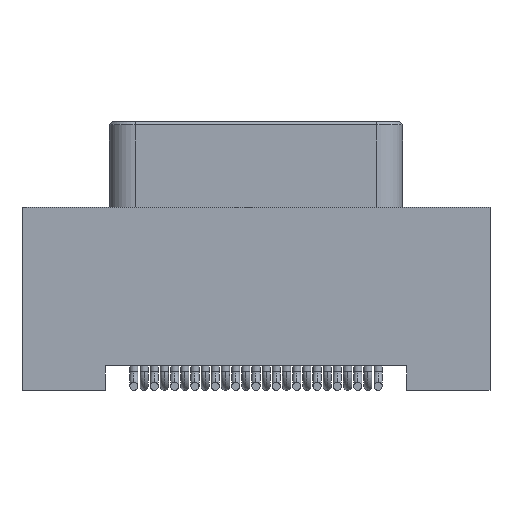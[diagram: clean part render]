
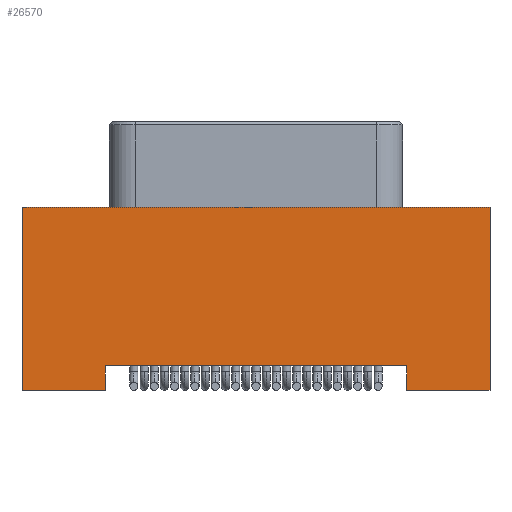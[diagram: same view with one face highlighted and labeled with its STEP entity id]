
A CAD part, front view. The second image highlights one B-rep face of the part: STEP entity #26570.
In plain terms, the highlighted planar face has unit normal (0, -1, 0).
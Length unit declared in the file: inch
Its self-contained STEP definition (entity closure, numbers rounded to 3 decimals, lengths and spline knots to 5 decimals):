
#292 = EDGE_CURVE ( 'NONE', #6756, #18882, #26826, .T. ) ;
#635 = CARTESIAN_POINT ( 'NONE',  ( -0.2875, -0.0575, -0.105 ) ) ;
#706 = VECTOR ( 'NONE', #13394, 39.37008 ) ;
#858 = ORIENTED_EDGE ( 'NONE', *, *, #25225, .F. ) ;
#1547 = ORIENTED_EDGE ( 'NONE', *, *, #2465, .T. ) ;
#2465 = EDGE_CURVE ( 'NONE', #19016, #6756, #24839, .T. ) ;
#2733 = LINE ( 'NONE', #635, #6737 ) ;
#3201 = ORIENTED_EDGE ( 'NONE', *, *, #21034, .F. ) ;
#4126 = EDGE_CURVE ( 'NONE', #19050, #19016, #16766, .T. ) ;
#4665 = PLANE ( 'NONE',  #21988 ) ;
#5192 = DIRECTION ( 'NONE',  ( -1., 0., 0. ) ) ;
#5815 = CARTESIAN_POINT ( 'NONE',  ( -0.185, -0.0575, -0.3 ) ) ;
#5855 = CARTESIAN_POINT ( 'NONE',  ( -0.185, -0.0575, -0.33 ) ) ;
#6737 = VECTOR ( 'NONE', #5192, 39.37008 ) ;
#6756 = VERTEX_POINT ( 'NONE', #10964 ) ;
#6989 = VERTEX_POINT ( 'NONE', #12966 ) ;
#8155 = VERTEX_POINT ( 'NONE', #5855 ) ;
#8957 = VECTOR ( 'NONE', #27864, 39.37008 ) ;
#8963 = EDGE_CURVE ( 'NONE', #6989, #8155, #15974, .T. ) ;
#9331 = DIRECTION ( 'NONE',  ( 0., 0., -1. ) ) ;
#9729 = CARTESIAN_POINT ( 'NONE',  ( -0.2875, -0.0575, -0.33 ) ) ;
#9776 = VECTOR ( 'NONE', #14545, 39.37008 ) ;
#10398 = CARTESIAN_POINT ( 'NONE',  ( -0.2875, -0.0575, -0.105 ) ) ;
#10432 = EDGE_CURVE ( 'NONE', #18882, #17264, #2733, .T. ) ;
#10723 = CARTESIAN_POINT ( 'NONE',  ( 0.185, -0.0575, -0.3 ) ) ;
#10964 = CARTESIAN_POINT ( 'NONE',  ( 0.2875, -0.0575, -0.33 ) ) ;
#11395 = CARTESIAN_POINT ( 'NONE',  ( -0.185, -0.0575, -0.3 ) ) ;
#12080 = ORIENTED_EDGE ( 'NONE', *, *, #10432, .T. ) ;
#12966 = CARTESIAN_POINT ( 'NONE',  ( -0.2875, -0.0575, -0.33 ) ) ;
#13185 = VECTOR ( 'NONE', #27681, 39.37008 ) ;
#13394 = DIRECTION ( 'NONE',  ( -1., 0., 0. ) ) ;
#14328 = LINE ( 'NONE', #11395, #25252 ) ;
#14545 = DIRECTION ( 'NONE',  ( 1., 0., 0. ) ) ;
#14739 = ORIENTED_EDGE ( 'NONE', *, *, #292, .T. ) ;
#14983 = VERTEX_POINT ( 'NONE', #5815 ) ;
#15974 = LINE ( 'NONE', #16894, #9776 ) ;
#16766 = LINE ( 'NONE', #10723, #28415 ) ;
#16894 = CARTESIAN_POINT ( 'NONE',  ( -0.2875, -0.0575, -0.33 ) ) ;
#17032 = ORIENTED_EDGE ( 'NONE', *, *, #19012, .F. ) ;
#17264 = VERTEX_POINT ( 'NONE', #10398 ) ;
#18882 = VERTEX_POINT ( 'NONE', #27951 ) ;
#19012 = EDGE_CURVE ( 'NONE', #6989, #17264, #29665, .T. ) ;
#19016 = VERTEX_POINT ( 'NONE', #21327 ) ;
#19050 = VERTEX_POINT ( 'NONE', #19096 ) ;
#19096 = CARTESIAN_POINT ( 'NONE',  ( 0.185, -0.0575, -0.3 ) ) ;
#19957 = LINE ( 'NONE', #29664, #706 ) ;
#20000 = EDGE_LOOP ( 'NONE', ( #29096, #1547, #14739, #12080, #17032, #30018, #3201, #858 ) ) ;
#20923 = CARTESIAN_POINT ( 'NONE',  ( -0.2875, -0.0575, -0.33 ) ) ;
#20975 = FACE_OUTER_BOUND ( 'NONE', #20000, .T. ) ;
#21034 = EDGE_CURVE ( 'NONE', #14983, #8155, #14328, .T. ) ;
#21327 = CARTESIAN_POINT ( 'NONE',  ( 0.185, -0.0575, -0.33 ) ) ;
#21988 = AXIS2_PLACEMENT_3D ( 'NONE', #20923, #23274, #9331 ) ;
#23002 = CARTESIAN_POINT ( 'NONE',  ( -0.2875, -0.0575, -0.33 ) ) ;
#23185 = CARTESIAN_POINT ( 'NONE',  ( 0.2875, -0.0575, -0.33 ) ) ;
#23274 = DIRECTION ( 'NONE',  ( 0., -1., 0. ) ) ;
#23682 = DIRECTION ( 'NONE',  ( 0., 0., 1. ) ) ;
#24839 = LINE ( 'NONE', #23002, #13185 ) ;
#25225 = EDGE_CURVE ( 'NONE', #19050, #14983, #19957, .T. ) ;
#25252 = VECTOR ( 'NONE', #25334, 39.37008 ) ;
#25334 = DIRECTION ( 'NONE',  ( 0., 0., -1. ) ) ;
#26570 = ADVANCED_FACE ( 'NONE', ( #20975 ), #4665, .T. ) ;
#26826 = LINE ( 'NONE', #23185, #8957 ) ;
#26993 = DIRECTION ( 'NONE',  ( 0., 0., -1. ) ) ;
#27681 = DIRECTION ( 'NONE',  ( 1., 0., 0. ) ) ;
#27864 = DIRECTION ( 'NONE',  ( 0., 0., 1. ) ) ;
#27951 = CARTESIAN_POINT ( 'NONE',  ( 0.2875, -0.0575, -0.105 ) ) ;
#28415 = VECTOR ( 'NONE', #26993, 39.37008 ) ;
#28935 = VECTOR ( 'NONE', #23682, 39.37008 ) ;
#29096 = ORIENTED_EDGE ( 'NONE', *, *, #4126, .T. ) ;
#29664 = CARTESIAN_POINT ( 'NONE',  ( 0.185, -0.0575, -0.3 ) ) ;
#29665 = LINE ( 'NONE', #9729, #28935 ) ;
#30018 = ORIENTED_EDGE ( 'NONE', *, *, #8963, .T. ) ;
